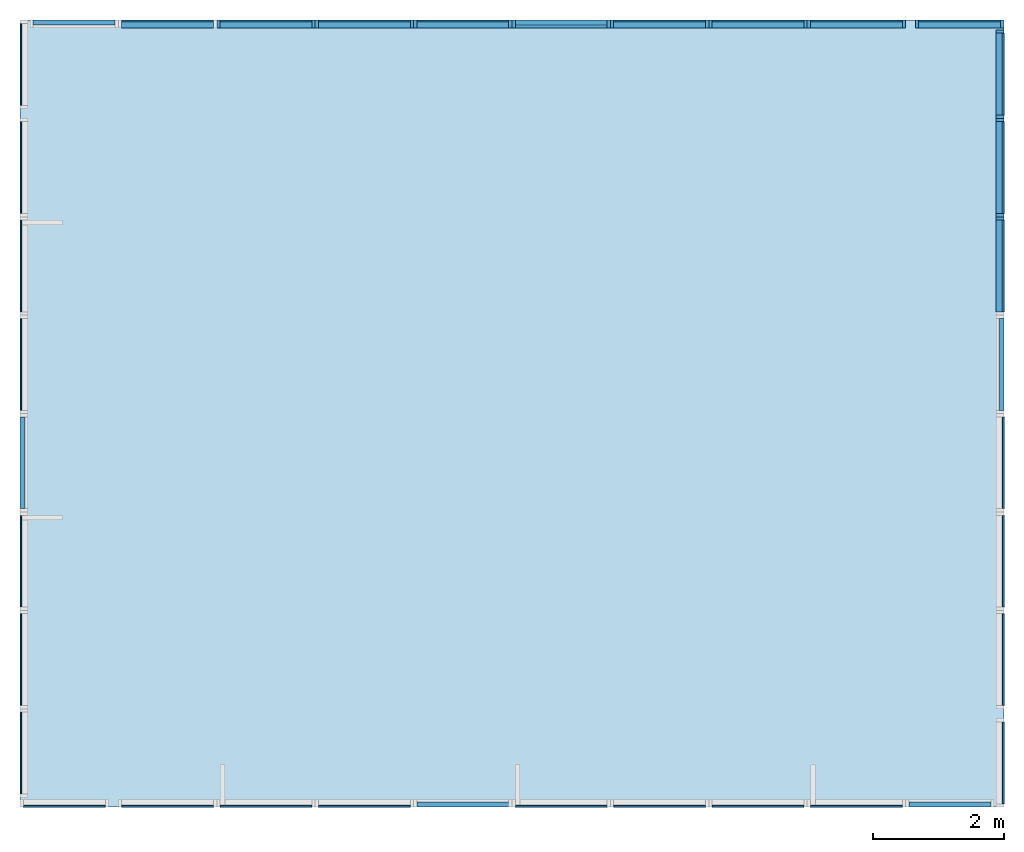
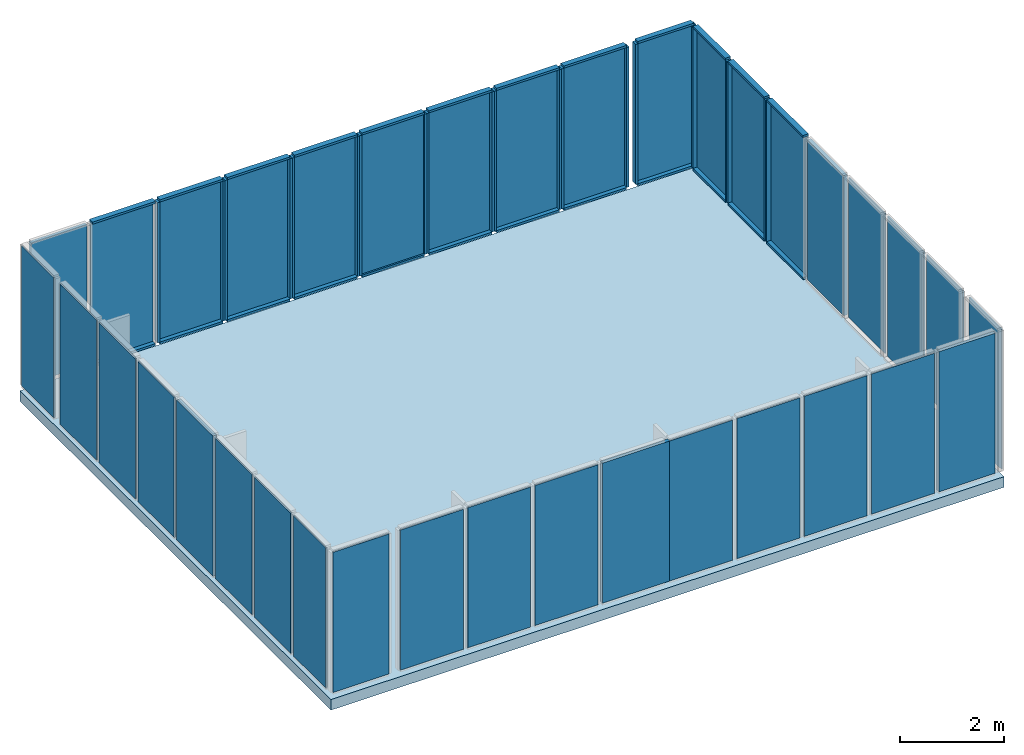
# One storey, part 2 of 2: 45 members, 36 plates, 1 slab.
"""IFC4 building model written with IfcOpenShell, lengths in metres."""

from ifc_helpers import new_model, si_unit, frame, origin_with_axes, place, context, subcontext, project, spatial, indexed_curve, outline, extrude, material, element, save


model = new_model("IFC4")

# Units and contexts
model_context = context("Model", 3, precision=1e-05, world=origin_with_axes())
body_context = subcontext(model_context, "Body", "Model", "MODEL_VIEW")
ifc_project = project(units=[si_unit("AREAUNIT", "SQUARE_METRE"), si_unit("VOLUMEUNIT", "CUBIC_METRE"), si_unit("LENGTHUNIT", "METRE")], contexts=[model_context])

# Site, building, storey
site = spatial("IfcSite", under=ifc_project, Name="Synthetic Site")
building = spatial("IfcBuilding", under=site, Name="Complex Tower")
storey_placement = place(None, frame((0.0, 0.0, 34.2), z_axis=(0.0, 0.0, 1.0), x_axis=(1.0, 0.0, 0.0)))
storey = spatial("IfcBuildingStorey", under=building, at=storey_placement, Name="L10", Elevation=34.2)

# Members
ifc_material_1 = material(Name="Aluminium")
member_placement = place(storey_placement, frame((21.0, 11.950000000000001, 0.14999999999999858), z_axis=(0.0, 0.0, 1.0), x_axis=(6.123233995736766e-17, 1.0, 0.0)))
element("IfcMember", 1, at=member_placement, inside=storey, material=ifc_material_1, Name="CT-L10-E-006-MR", PredefinedType="MULLION", context=body_context, shape_type="SweptSolid", body=[
    extrude(outline(indexed_curve([(0.0, 0.0), (0.0, 0.12), (0.05, 0.12), (0.05, 0.0), (0.0, 0.0)], self_intersect=False)), origin_with_axes(), (0.0, 0.0, 1.0), 3.3000000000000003),
])
for number, where, z_axis, x_axis, name in (
    (2, (21.0, 10.55, 0.10000000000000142), (0.0, 0.0, 1.0), (6.123233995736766e-17, 1.0, 0.0), "CT-L10-E-006-FB"),
    (3, (21.0, 10.55, 3.4499999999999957), (0.0, 0.0, 1.0), (6.123233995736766e-17, 1.0, 0.0), "CT-L10-E-006-FT"),
):
    element("IfcMember", number, at=place(storey_placement, frame(where, z_axis=z_axis, x_axis=x_axis)), inside=storey, material=ifc_material_1, Name=name, PredefinedType="MULLION", context=body_context, shape_type="SweptSolid", body=[
        extrude(outline(indexed_curve([(0.0, 0.0), (0.0, 0.12), (1.4, 0.12), (1.4, 0.0), (0.0, 0.0)], self_intersect=False)), origin_with_axes(), (0.0, 0.0, 1.0), 0.05),
    ])
for number, where, z_axis, x_axis, name in (
    (4, (21.0, 12.0, 0.14999999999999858), (0.0, 0.0, 1.0), (6.123233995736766e-17, 1.0, 0.0), "CT-L10-E-007-ML"),
    (5, (21.0, 13.450000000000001, 0.14999999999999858), (0.0, 0.0, 1.0), (6.123233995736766e-17, 1.0, 0.0), "CT-L10-E-007-MR"),
):
    element("IfcMember", number, at=place(storey_placement, frame(where, z_axis=z_axis, x_axis=x_axis)), inside=storey, material=ifc_material_1, Name=name, PredefinedType="MULLION", context=body_context, shape_type="SweptSolid", body=[
        extrude(outline(indexed_curve([(0.0, 0.0), (0.0, 0.12), (0.05, 0.12), (0.05, 0.0), (0.0, 0.0)], self_intersect=False)), origin_with_axes(), (0.0, 0.0, 1.0), 3.3000000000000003),
    ])
for number, where, z_axis, x_axis, name in (
    (6, (21.0, 12.05, 0.10000000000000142), (0.0, 0.0, 1.0), (6.123233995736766e-17, 1.0, 0.0), "CT-L10-E-007-FB"),
    (7, (21.0, 12.05, 3.4499999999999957), (0.0, 0.0, 1.0), (6.123233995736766e-17, 1.0, 0.0), "CT-L10-E-007-FT"),
):
    element("IfcMember", number, at=place(storey_placement, frame(where, z_axis=z_axis, x_axis=x_axis)), inside=storey, material=ifc_material_1, Name=name, PredefinedType="MULLION", context=body_context, shape_type="SweptSolid", body=[
        extrude(outline(indexed_curve([(0.0, 0.0), (0.0, 0.12), (1.4, 0.12), (1.4, 0.0), (0.0, 0.0)], self_intersect=False)), origin_with_axes(), (0.0, 0.0, 1.0), 0.05),
    ])
for number, where, z_axis, x_axis, name in (
    (8, (21.0, 13.5, 0.14999999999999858), (0.0, 0.0, 1.0), (6.123233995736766e-17, 1.0, 0.0), "CT-L10-E-008-ML"),
    (9, (21.0, 14.8, 0.14999999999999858), (0.0, 0.0, 1.0), (6.123233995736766e-17, 1.0, 0.0), "CT-L10-E-008-MR"),
):
    element("IfcMember", number, at=place(storey_placement, frame(where, z_axis=z_axis, x_axis=x_axis)), inside=storey, material=ifc_material_1, Name=name, PredefinedType="MULLION", context=body_context, shape_type="SweptSolid", body=[
        extrude(outline(indexed_curve([(0.0, 0.0), (0.0, 0.12), (0.05, 0.12), (0.05, 0.0), (0.0, 0.0)], self_intersect=False)), origin_with_axes(), (0.0, 0.0, 1.0), 3.3000000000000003),
    ])
for number, where, z_axis, x_axis, name in (
    (10, (21.0, 13.55, 0.10000000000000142), (0.0, 0.0, 1.0), (6.123233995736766e-17, 1.0, 0.0), "CT-L10-E-008-FB"),
    (11, (21.0, 13.55, 3.4499999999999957), (0.0, 0.0, 1.0), (6.123233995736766e-17, 1.0, 0.0), "CT-L10-E-008-FT"),
):
    element("IfcMember", number, at=place(storey_placement, frame(where, z_axis=z_axis, x_axis=x_axis)), inside=storey, material=ifc_material_1, Name=name, PredefinedType="MULLION", context=body_context, shape_type="SweptSolid", body=[
        extrude(outline(indexed_curve([(0.0, 0.0), (0.0, 0.12), (1.25, 0.12), (1.25, 0.0), (0.0, 0.0)], self_intersect=False)), origin_with_axes(), (0.0, 0.0, 1.0), 0.05),
    ])
for number, where, z_axis, x_axis, name in (
    (12, (21.0, 15.0, 0.14999999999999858), (0.0, 0.0, 1.0), (-1.0, 1.2246467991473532e-16, 0.0), "CT-L10-N-001-ML"),
    (13, (19.7, 15.0, 0.14999999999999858), (0.0, 0.0, 1.0), (-1.0, 1.2246467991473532e-16, 0.0), "CT-L10-N-001-MR"),
):
    element("IfcMember", number, at=place(storey_placement, frame(where, z_axis=z_axis, x_axis=x_axis)), inside=storey, material=ifc_material_1, Name=name, PredefinedType="MULLION", context=body_context, shape_type="SweptSolid", body=[
        extrude(outline(indexed_curve([(0.0, 0.0), (0.0, 0.12), (0.05, 0.12), (0.05, 0.0), (0.0, 0.0)], self_intersect=False)), origin_with_axes(), (0.0, 0.0, 1.0), 3.3000000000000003),
    ])
for number, where, z_axis, x_axis, name in (
    (14, (20.95, 15.0, 0.10000000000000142), (0.0, 0.0, 1.0), (-1.0, 1.2246467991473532e-16, 0.0), "CT-L10-N-001-FB"),
    (15, (20.95, 15.0, 3.4499999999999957), (0.0, 0.0, 1.0), (-1.0, 1.2246467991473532e-16, 0.0), "CT-L10-N-001-FT"),
):
    element("IfcMember", number, at=place(storey_placement, frame(where, z_axis=z_axis, x_axis=x_axis)), inside=storey, material=ifc_material_1, Name=name, PredefinedType="MULLION", context=body_context, shape_type="SweptSolid", body=[
        extrude(outline(indexed_curve([(0.0, 0.0), (0.0, 0.12), (1.25, 0.12), (1.25, 0.0), (0.0, 0.0)], self_intersect=False)), origin_with_axes(), (0.0, 0.0, 1.0), 0.05),
    ])
for number, where, z_axis, x_axis, name in (
    (16, (19.5, 15.0, 0.14999999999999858), (0.0, 0.0, 1.0), (-1.0, 1.2246467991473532e-16, 0.0), "CT-L10-N-002-ML"),
    (17, (18.05, 15.0, 0.14999999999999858), (0.0, 0.0, 1.0), (-1.0, 1.2246467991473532e-16, 0.0), "CT-L10-N-002-MR"),
):
    element("IfcMember", number, at=place(storey_placement, frame(where, z_axis=z_axis, x_axis=x_axis)), inside=storey, material=ifc_material_1, Name=name, PredefinedType="MULLION", context=body_context, shape_type="SweptSolid", body=[
        extrude(outline(indexed_curve([(0.0, 0.0), (0.0, 0.12), (0.05, 0.12), (0.05, 0.0), (0.0, 0.0)], self_intersect=False)), origin_with_axes(), (0.0, 0.0, 1.0), 3.3000000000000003),
    ])
for number, where, z_axis, x_axis, name in (
    (18, (19.45, 15.0, 0.10000000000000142), (0.0, 0.0, 1.0), (-1.0, 1.2246467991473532e-16, 0.0), "CT-L10-N-002-FB"),
    (19, (19.45, 15.0, 3.4499999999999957), (0.0, 0.0, 1.0), (-1.0, 1.2246467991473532e-16, 0.0), "CT-L10-N-002-FT"),
):
    element("IfcMember", number, at=place(storey_placement, frame(where, z_axis=z_axis, x_axis=x_axis)), inside=storey, material=ifc_material_1, Name=name, PredefinedType="MULLION", context=body_context, shape_type="SweptSolid", body=[
        extrude(outline(indexed_curve([(0.0, 0.0), (0.0, 0.12), (1.4, 0.12), (1.4, 0.0), (0.0, 0.0)], self_intersect=False)), origin_with_axes(), (0.0, 0.0, 1.0), 0.05),
    ])
for number, where, z_axis, x_axis, name in (
    (20, (18.0, 15.0, 0.14999999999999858), (0.0, 0.0, 1.0), (-1.0, 1.2246467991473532e-16, 0.0), "CT-L10-N-003-ML"),
    (21, (16.55, 15.0, 0.14999999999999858), (0.0, 0.0, 1.0), (-1.0, 1.2246467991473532e-16, 0.0), "CT-L10-N-003-MR"),
):
    element("IfcMember", number, at=place(storey_placement, frame(where, z_axis=z_axis, x_axis=x_axis)), inside=storey, material=ifc_material_1, Name=name, PredefinedType="MULLION", context=body_context, shape_type="SweptSolid", body=[
        extrude(outline(indexed_curve([(0.0, 0.0), (0.0, 0.12), (0.05, 0.12), (0.05, 0.0), (0.0, 0.0)], self_intersect=False)), origin_with_axes(), (0.0, 0.0, 1.0), 3.3000000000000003),
    ])
for number, where, z_axis, x_axis, name in (
    (22, (17.95, 15.0, 0.10000000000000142), (0.0, 0.0, 1.0), (-1.0, 1.2246467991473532e-16, 0.0), "CT-L10-N-003-FB"),
    (23, (17.95, 15.0, 3.4499999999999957), (0.0, 0.0, 1.0), (-1.0, 1.2246467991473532e-16, 0.0), "CT-L10-N-003-FT"),
):
    element("IfcMember", number, at=place(storey_placement, frame(where, z_axis=z_axis, x_axis=x_axis)), inside=storey, material=ifc_material_1, Name=name, PredefinedType="MULLION", context=body_context, shape_type="SweptSolid", body=[
        extrude(outline(indexed_curve([(0.0, 0.0), (0.0, 0.12), (1.4, 0.12), (1.4, 0.0), (0.0, 0.0)], self_intersect=False)), origin_with_axes(), (0.0, 0.0, 1.0), 0.05),
    ])
for number, where, z_axis, x_axis, name in (
    (24, (16.5, 15.0, 0.14999999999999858), (0.0, 0.0, 1.0), (-1.0, 1.2246467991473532e-16, 0.0), "CT-L10-N-004-ML"),
    (25, (15.049999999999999, 15.0, 0.14999999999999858), (0.0, 0.0, 1.0), (-1.0, 1.2246467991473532e-16, 0.0), "CT-L10-N-004-MR"),
):
    element("IfcMember", number, at=place(storey_placement, frame(where, z_axis=z_axis, x_axis=x_axis)), inside=storey, material=ifc_material_1, Name=name, PredefinedType="MULLION", context=body_context, shape_type="SweptSolid", body=[
        extrude(outline(indexed_curve([(0.0, 0.0), (0.0, 0.12), (0.05, 0.12), (0.05, 0.0), (0.0, 0.0)], self_intersect=False)), origin_with_axes(), (0.0, 0.0, 1.0), 3.3000000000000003),
    ])
for number, where, z_axis, x_axis, name in (
    (26, (16.45, 15.0, 0.10000000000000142), (0.0, 0.0, 1.0), (-1.0, 1.2246467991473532e-16, 0.0), "CT-L10-N-004-FB"),
    (27, (16.45, 15.0, 3.4499999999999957), (0.0, 0.0, 1.0), (-1.0, 1.2246467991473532e-16, 0.0), "CT-L10-N-004-FT"),
):
    element("IfcMember", number, at=place(storey_placement, frame(where, z_axis=z_axis, x_axis=x_axis)), inside=storey, material=ifc_material_1, Name=name, PredefinedType="MULLION", context=body_context, shape_type="SweptSolid", body=[
        extrude(outline(indexed_curve([(0.0, 0.0), (0.0, 0.12), (1.4, 0.12), (1.4, 0.0), (0.0, 0.0)], self_intersect=False)), origin_with_axes(), (0.0, 0.0, 1.0), 0.05),
    ])
for number, where, z_axis, x_axis, name in (
    (28, (15.0, 15.0, 0.14999999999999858), (0.0, 0.0, 1.0), (-1.0, 1.2246467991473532e-16, 0.0), "CT-L10-N-005-ML"),
    (29, (13.549999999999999, 15.0, 0.14999999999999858), (0.0, 0.0, 1.0), (-1.0, 1.2246467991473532e-16, 0.0), "CT-L10-N-005-MR"),
):
    element("IfcMember", number, at=place(storey_placement, frame(where, z_axis=z_axis, x_axis=x_axis)), inside=storey, material=ifc_material_1, Name=name, PredefinedType="MULLION", context=body_context, shape_type="SweptSolid", body=[
        extrude(outline(indexed_curve([(0.0, 0.0), (0.0, 0.12), (0.05, 0.12), (0.05, 0.0), (0.0, 0.0)], self_intersect=False)), origin_with_axes(), (0.0, 0.0, 1.0), 3.3000000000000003),
    ])
for number, where, z_axis, x_axis, name in (
    (30, (14.95, 15.0, 0.10000000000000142), (0.0, 0.0, 1.0), (-1.0, 1.2246467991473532e-16, 0.0), "CT-L10-N-005-FB"),
    (31, (14.95, 15.0, 3.4499999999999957), (0.0, 0.0, 1.0), (-1.0, 1.2246467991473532e-16, 0.0), "CT-L10-N-005-FT"),
):
    element("IfcMember", number, at=place(storey_placement, frame(where, z_axis=z_axis, x_axis=x_axis)), inside=storey, material=ifc_material_1, Name=name, PredefinedType="MULLION", context=body_context, shape_type="SweptSolid", body=[
        extrude(outline(indexed_curve([(0.0, 0.0), (0.0, 0.12), (1.4, 0.12), (1.4, 0.0), (0.0, 0.0)], self_intersect=False)), origin_with_axes(), (0.0, 0.0, 1.0), 0.05),
    ])
for number, where, z_axis, x_axis, name in (
    (32, (13.5, 15.000000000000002, 0.14999999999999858), (0.0, 0.0, 1.0), (-1.0, 1.2246467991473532e-16, 0.0), "CT-L10-N-006-ML"),
    (33, (12.049999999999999, 15.000000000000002, 0.14999999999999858), (0.0, 0.0, 1.0), (-1.0, 1.2246467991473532e-16, 0.0), "CT-L10-N-006-MR"),
):
    element("IfcMember", number, at=place(storey_placement, frame(where, z_axis=z_axis, x_axis=x_axis)), inside=storey, material=ifc_material_1, Name=name, PredefinedType="MULLION", context=body_context, shape_type="SweptSolid", body=[
        extrude(outline(indexed_curve([(0.0, 0.0), (0.0, 0.12), (0.05, 0.12), (0.05, 0.0), (0.0, 0.0)], self_intersect=False)), origin_with_axes(), (0.0, 0.0, 1.0), 3.3000000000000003),
    ])
for number, where, z_axis, x_axis, name in (
    (34, (13.45, 15.000000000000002, 0.10000000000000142), (0.0, 0.0, 1.0), (-1.0, 1.2246467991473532e-16, 0.0), "CT-L10-N-006-FB"),
    (35, (13.45, 15.000000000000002, 3.4499999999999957), (0.0, 0.0, 1.0), (-1.0, 1.2246467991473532e-16, 0.0), "CT-L10-N-006-FT"),
):
    element("IfcMember", number, at=place(storey_placement, frame(where, z_axis=z_axis, x_axis=x_axis)), inside=storey, material=ifc_material_1, Name=name, PredefinedType="MULLION", context=body_context, shape_type="SweptSolid", body=[
        extrude(outline(indexed_curve([(0.0, 0.0), (0.0, 0.12), (1.4, 0.12), (1.4, 0.0), (0.0, 0.0)], self_intersect=False)), origin_with_axes(), (0.0, 0.0, 1.0), 0.05),
    ])
for number, where, z_axis, x_axis, name in (
    (36, (12.0, 15.000000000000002, 0.14999999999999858), (0.0, 0.0, 1.0), (-1.0, 1.2246467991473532e-16, 0.0), "CT-L10-N-007-ML"),
    (37, (10.549999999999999, 15.000000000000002, 0.14999999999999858), (0.0, 0.0, 1.0), (-1.0, 1.2246467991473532e-16, 0.0), "CT-L10-N-007-MR"),
):
    element("IfcMember", number, at=place(storey_placement, frame(where, z_axis=z_axis, x_axis=x_axis)), inside=storey, material=ifc_material_1, Name=name, PredefinedType="MULLION", context=body_context, shape_type="SweptSolid", body=[
        extrude(outline(indexed_curve([(0.0, 0.0), (0.0, 0.12), (0.05, 0.12), (0.05, 0.0), (0.0, 0.0)], self_intersect=False)), origin_with_axes(), (0.0, 0.0, 1.0), 3.3000000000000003),
    ])
for number, where, z_axis, x_axis, name in (
    (38, (11.95, 15.000000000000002, 0.10000000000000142), (0.0, 0.0, 1.0), (-1.0, 1.2246467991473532e-16, 0.0), "CT-L10-N-007-FB"),
    (39, (11.95, 15.000000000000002, 3.4499999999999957), (0.0, 0.0, 1.0), (-1.0, 1.2246467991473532e-16, 0.0), "CT-L10-N-007-FT"),
):
    element("IfcMember", number, at=place(storey_placement, frame(where, z_axis=z_axis, x_axis=x_axis)), inside=storey, material=ifc_material_1, Name=name, PredefinedType="MULLION", context=body_context, shape_type="SweptSolid", body=[
        extrude(outline(indexed_curve([(0.0, 0.0), (0.0, 0.12), (1.4, 0.12), (1.4, 0.0), (0.0, 0.0)], self_intersect=False)), origin_with_axes(), (0.0, 0.0, 1.0), 0.05),
    ])
for number, where, z_axis, x_axis, name in (
    (40, (10.5, 15.000000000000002, 0.14999999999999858), (0.0, 0.0, 1.0), (-1.0, 1.2246467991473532e-16, 0.0), "CT-L10-N-008-ML"),
    (41, (9.049999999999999, 15.000000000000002, 0.14999999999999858), (0.0, 0.0, 1.0), (-1.0, 1.2246467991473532e-16, 0.0), "CT-L10-N-008-MR"),
):
    element("IfcMember", number, at=place(storey_placement, frame(where, z_axis=z_axis, x_axis=x_axis)), inside=storey, material=ifc_material_1, Name=name, PredefinedType="MULLION", context=body_context, shape_type="SweptSolid", body=[
        extrude(outline(indexed_curve([(0.0, 0.0), (0.0, 0.12), (0.05, 0.12), (0.05, 0.0), (0.0, 0.0)], self_intersect=False)), origin_with_axes(), (0.0, 0.0, 1.0), 3.3000000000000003),
    ])
for number, where, z_axis, x_axis, name in (
    (42, (10.45, 15.000000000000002, 0.10000000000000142), (0.0, 0.0, 1.0), (-1.0, 1.2246467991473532e-16, 0.0), "CT-L10-N-008-FB"),
    (43, (10.45, 15.000000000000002, 3.4499999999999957), (0.0, 0.0, 1.0), (-1.0, 1.2246467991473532e-16, 0.0), "CT-L10-N-008-FT"),
    (44, (8.95, 15.000000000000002, 0.10000000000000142), (0.0, 0.0, 1.0), (-1.0, 1.2246467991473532e-16, 0.0), "CT-L10-N-009-FB"),
    (45, (8.95, 15.000000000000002, 3.4499999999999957), (0.0, 0.0, 1.0), (-1.0, 1.2246467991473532e-16, 0.0), "CT-L10-N-009-FT"),
):
    element("IfcMember", number, at=place(storey_placement, frame(where, z_axis=z_axis, x_axis=x_axis)), inside=storey, material=ifc_material_1, Name=name, PredefinedType="MULLION", context=body_context, shape_type="SweptSolid", body=[
        extrude(outline(indexed_curve([(0.0, 0.0), (0.0, 0.12), (1.4, 0.12), (1.4, 0.0), (0.0, 0.0)], self_intersect=False)), origin_with_axes(), (0.0, 0.0, 1.0), 0.05),
    ])

# Plates
ifc_material_2 = material(Name="Glass")
plate_1_placement = place(storey_placement, frame((6.05, 3.0, 0.14999999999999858), z_axis=(0.0, 0.0, 1.0), x_axis=(1.0, 0.0, 0.0)))
element("IfcPlate", 46, at=plate_1_placement, inside=storey, material=ifc_material_2, Name="CT-L10-S-001", PredefinedType="CURTAIN_PANEL", context=body_context, shape_type="SweptSolid", body=[
    extrude(outline(indexed_curve([(0.0, 0.0), (0.0, 0.028), (1.25, 0.028), (1.25, 0.0), (0.0, 0.0)], self_intersect=False)), origin_with_axes(), (0.0, 0.0, 1.0), 3.3000000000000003),
])
for number, where, z_axis, x_axis, name in (
    (47, (7.55, 3.0, 0.14999999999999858), (0.0, 0.0, 1.0), (1.0, 0.0, 0.0), "CT-L10-S-002"),
    (48, (9.05, 3.0, 0.14999999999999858), (0.0, 0.0, 1.0), (1.0, 0.0, 0.0), "CT-L10-S-003"),
    (49, (10.55, 3.0, 0.14999999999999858), (0.0, 0.0, 1.0), (1.0, 0.0, 0.0), "CT-L10-S-004"),
):
    element("IfcPlate", number, at=place(storey_placement, frame(where, z_axis=z_axis, x_axis=x_axis)), inside=storey, material=ifc_material_2, Name=name, PredefinedType="CURTAIN_PANEL", context=body_context, shape_type="SweptSolid", body=[
        extrude(outline(indexed_curve([(0.0, 0.0), (0.0, 0.028), (1.4, 0.028), (1.4, 0.0), (0.0, 0.0)], self_intersect=False)), origin_with_axes(), (0.0, 0.0, 1.0), 3.3000000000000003),
    ])
plate_2_placement = place(storey_placement, frame((12.05, 3.0, 0.14999999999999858), z_axis=(0.0, 0.0, 1.0), x_axis=(1.0, 0.0, 0.0)))
element("IfcPlate", 50, at=plate_2_placement, inside=storey, material=ifc_material_1, Name="CT-L10-S-005", PredefinedType="SHEET", context=body_context, shape_type="SweptSolid", body=[
    extrude(outline(indexed_curve([(0.0, 0.0), (0.0, 0.08), (1.5, 0.08), (1.5, 0.0), (0.0, 0.0)], self_intersect=False)), origin_with_axes(), (0.0, 0.0, 1.0), 3.3000000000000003),
])
for number, where, z_axis, x_axis, name in (
    (51, (13.55, 3.0, 0.14999999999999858), (0.0, 0.0, 1.0), (1.0, 0.0, 0.0), "CT-L10-S-006"),
    (52, (15.05, 3.0, 0.14999999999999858), (0.0, 0.0, 1.0), (1.0, 0.0, 0.0), "CT-L10-S-007"),
    (53, (16.55, 3.0, 0.14999999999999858), (0.0, 0.0, 1.0), (1.0, 0.0, 0.0), "CT-L10-S-008"),
    (54, (18.05, 3.0, 0.14999999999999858), (0.0, 0.0, 1.0), (1.0, 0.0, 0.0), "CT-L10-S-009"),
):
    element("IfcPlate", number, at=place(storey_placement, frame(where, z_axis=z_axis, x_axis=x_axis)), inside=storey, material=ifc_material_2, Name=name, PredefinedType="CURTAIN_PANEL", context=body_context, shape_type="SweptSolid", body=[
        extrude(outline(indexed_curve([(0.0, 0.0), (0.0, 0.028), (1.4, 0.028), (1.4, 0.0), (0.0, 0.0)], self_intersect=False)), origin_with_axes(), (0.0, 0.0, 1.0), 3.3000000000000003),
    ])
plate_3_placement = place(storey_placement, frame((19.55, 3.0, 0.14999999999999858), z_axis=(0.0, 0.0, 1.0), x_axis=(1.0, 0.0, 0.0)))
element("IfcPlate", 55, at=plate_3_placement, inside=storey, material=ifc_material_1, Name="CT-L10-S-010", PredefinedType="SHEET", context=body_context, shape_type="SweptSolid", body=[
    extrude(outline(indexed_curve([(0.0, 0.0), (0.0, 0.08), (1.25, 0.08), (1.25, 0.0), (0.0, 0.0)], self_intersect=False)), origin_with_axes(), (0.0, 0.0, 1.0), 3.3000000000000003),
])
plate_4_placement = place(storey_placement, frame((21.0, 3.05, 0.14999999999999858), z_axis=(0.0, 0.0, 1.0), x_axis=(6.123233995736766e-17, 1.0, 0.0)))
element("IfcPlate", 56, at=plate_4_placement, inside=storey, material=ifc_material_2, Name="CT-L10-E-001", PredefinedType="CURTAIN_PANEL", context=body_context, shape_type="SweptSolid", body=[
    extrude(outline(indexed_curve([(0.0, 0.0), (0.0, 0.028), (1.25, 0.028), (1.25, 0.0), (0.0, 0.0)], self_intersect=False)), origin_with_axes(), (0.0, 0.0, 1.0), 3.3000000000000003),
])
for number, where, z_axis, x_axis, name in (
    (57, (21.0, 4.55, 0.14999999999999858), (0.0, 0.0, 1.0), (6.123233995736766e-17, 1.0, 0.0), "CT-L10-E-002"),
    (58, (21.0, 6.05, 0.14999999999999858), (0.0, 0.0, 1.0), (6.123233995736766e-17, 1.0, 0.0), "CT-L10-E-003"),
    (59, (21.0, 7.55, 0.14999999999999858), (0.0, 0.0, 1.0), (6.123233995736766e-17, 1.0, 0.0), "CT-L10-E-004"),
):
    element("IfcPlate", number, at=place(storey_placement, frame(where, z_axis=z_axis, x_axis=x_axis)), inside=storey, material=ifc_material_2, Name=name, PredefinedType="CURTAIN_PANEL", context=body_context, shape_type="SweptSolid", body=[
        extrude(outline(indexed_curve([(0.0, 0.0), (0.0, 0.028), (1.4, 0.028), (1.4, 0.0), (0.0, 0.0)], self_intersect=False)), origin_with_axes(), (0.0, 0.0, 1.0), 3.3000000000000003),
    ])
plate_5_placement = place(storey_placement, frame((21.0, 9.05, 0.14999999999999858), z_axis=(0.0, 0.0, 1.0), x_axis=(6.123233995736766e-17, 1.0, 0.0)))
element("IfcPlate", 60, at=plate_5_placement, inside=storey, material=ifc_material_1, Name="CT-L10-E-005", PredefinedType="SHEET", context=body_context, shape_type="SweptSolid", body=[
    extrude(outline(indexed_curve([(0.0, 0.0), (0.0, 0.08), (1.4, 0.08), (1.4, 0.0), (0.0, 0.0)], self_intersect=False)), origin_with_axes(), (0.0, 0.0, 1.0), 3.3000000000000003),
])
for number, where, z_axis, x_axis, name in (
    (61, (21.0, 10.55, 0.14999999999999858), (0.0, 0.0, 1.0), (6.123233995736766e-17, 1.0, 0.0), "CT-L10-E-006"),
    (62, (21.0, 12.05, 0.14999999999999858), (0.0, 0.0, 1.0), (6.123233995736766e-17, 1.0, 0.0), "CT-L10-E-007"),
):
    element("IfcPlate", number, at=place(storey_placement, frame(where, z_axis=z_axis, x_axis=x_axis)), inside=storey, material=ifc_material_2, Name=name, PredefinedType="CURTAIN_PANEL", context=body_context, shape_type="SweptSolid", body=[
        extrude(outline(indexed_curve([(0.0, 0.0), (0.0, 0.028), (1.4, 0.028), (1.4, 0.0), (0.0, 0.0)], self_intersect=False)), origin_with_axes(), (0.0, 0.0, 1.0), 3.3000000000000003),
    ])
for number, where, z_axis, x_axis, name in (
    (63, (21.0, 13.55, 0.14999999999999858), (0.0, 0.0, 1.0), (6.123233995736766e-17, 1.0, 0.0), "CT-L10-E-008"),
    (64, (20.95, 15.0, 0.14999999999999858), (0.0, 0.0, 1.0), (-1.0, 1.2246467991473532e-16, 0.0), "CT-L10-N-001"),
):
    element("IfcPlate", number, at=place(storey_placement, frame(where, z_axis=z_axis, x_axis=x_axis)), inside=storey, material=ifc_material_2, Name=name, PredefinedType="CURTAIN_PANEL", context=body_context, shape_type="SweptSolid", body=[
        extrude(outline(indexed_curve([(0.0, 0.0), (0.0, 0.028), (1.25, 0.028), (1.25, 0.0), (0.0, 0.0)], self_intersect=False)), origin_with_axes(), (0.0, 0.0, 1.0), 3.3000000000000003),
    ])
for number, where, z_axis, x_axis, name in (
    (65, (19.45, 15.0, 0.14999999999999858), (0.0, 0.0, 1.0), (-1.0, 1.2246467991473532e-16, 0.0), "CT-L10-N-002"),
    (66, (17.95, 15.0, 0.14999999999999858), (0.0, 0.0, 1.0), (-1.0, 1.2246467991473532e-16, 0.0), "CT-L10-N-003"),
    (67, (16.45, 15.0, 0.14999999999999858), (0.0, 0.0, 1.0), (-1.0, 1.2246467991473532e-16, 0.0), "CT-L10-N-004"),
):
    element("IfcPlate", number, at=place(storey_placement, frame(where, z_axis=z_axis, x_axis=x_axis)), inside=storey, material=ifc_material_2, Name=name, PredefinedType="CURTAIN_PANEL", context=body_context, shape_type="SweptSolid", body=[
        extrude(outline(indexed_curve([(0.0, 0.0), (0.0, 0.028), (1.4, 0.028), (1.4, 0.0), (0.0, 0.0)], self_intersect=False)), origin_with_axes(), (0.0, 0.0, 1.0), 3.3000000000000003),
    ])
plate_6_placement = place(storey_placement, frame((14.95, 15.0, 0.14999999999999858), z_axis=(0.0, 0.0, 1.0), x_axis=(-1.0, 1.2246467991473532e-16, 0.0)))
element("IfcPlate", 68, at=plate_6_placement, inside=storey, material=ifc_material_1, Name="CT-L10-N-005", PredefinedType="SHEET", context=body_context, shape_type="SweptSolid", body=[
    extrude(outline(indexed_curve([(0.0, 0.0), (0.0, 0.08), (1.4, 0.08), (1.4, 0.0), (0.0, 0.0)], self_intersect=False)), origin_with_axes(), (0.0, 0.0, 1.0), 3.3000000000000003),
])
for number, where, z_axis, x_axis, name in (
    (69, (13.45, 15.000000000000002, 0.14999999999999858), (0.0, 0.0, 1.0), (-1.0, 1.2246467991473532e-16, 0.0), "CT-L10-N-006"),
    (70, (11.95, 15.000000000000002, 0.14999999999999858), (0.0, 0.0, 1.0), (-1.0, 1.2246467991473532e-16, 0.0), "CT-L10-N-007"),
    (71, (10.45, 15.000000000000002, 0.14999999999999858), (0.0, 0.0, 1.0), (-1.0, 1.2246467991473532e-16, 0.0), "CT-L10-N-008"),
    (72, (8.95, 15.000000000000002, 0.14999999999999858), (0.0, 0.0, 1.0), (-1.0, 1.2246467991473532e-16, 0.0), "CT-L10-N-009"),
):
    element("IfcPlate", number, at=place(storey_placement, frame(where, z_axis=z_axis, x_axis=x_axis)), inside=storey, material=ifc_material_2, Name=name, PredefinedType="CURTAIN_PANEL", context=body_context, shape_type="SweptSolid", body=[
        extrude(outline(indexed_curve([(0.0, 0.0), (0.0, 0.028), (1.4, 0.028), (1.4, 0.0), (0.0, 0.0)], self_intersect=False)), origin_with_axes(), (0.0, 0.0, 1.0), 3.3000000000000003),
    ])
plate_7_placement = place(storey_placement, frame((7.449999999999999, 15.000000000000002, 0.14999999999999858), z_axis=(0.0, 0.0, 1.0), x_axis=(-1.0, 1.2246467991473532e-16, 0.0)))
element("IfcPlate", 73, at=plate_7_placement, inside=storey, material=ifc_material_1, Name="CT-L10-N-010", PredefinedType="SHEET", context=body_context, shape_type="SweptSolid", body=[
    extrude(outline(indexed_curve([(0.0, 0.0), (0.0, 0.08), (1.25, 0.08), (1.25, 0.0), (0.0, 0.0)], self_intersect=False)), origin_with_axes(), (0.0, 0.0, 1.0), 3.3000000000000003),
])
plate_8_placement = place(storey_placement, frame((6.0, 14.95, 0.14999999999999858), z_axis=(0.0, 0.0, 1.0), x_axis=(-1.8369701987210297e-16, -1.0, 0.0)))
element("IfcPlate", 74, at=plate_8_placement, inside=storey, material=ifc_material_2, Name="CT-L10-W-001", PredefinedType="CURTAIN_PANEL", context=body_context, shape_type="SweptSolid", body=[
    extrude(outline(indexed_curve([(0.0, 0.0), (0.0, 0.028), (1.25, 0.028), (1.25, 0.0), (0.0, 0.0)], self_intersect=False)), origin_with_axes(), (0.0, 0.0, 1.0), 3.3000000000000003),
])
for number, where, z_axis, x_axis, name in (
    (75, (6.0, 13.45, 0.14999999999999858), (0.0, 0.0, 1.0), (-1.8369701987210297e-16, -1.0, 0.0), "CT-L10-W-002"),
    (76, (5.999999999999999, 11.95, 0.14999999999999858), (0.0, 0.0, 1.0), (-1.8369701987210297e-16, -1.0, 0.0), "CT-L10-W-003"),
    (77, (5.999999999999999, 10.45, 0.14999999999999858), (0.0, 0.0, 1.0), (-1.8369701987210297e-16, -1.0, 0.0), "CT-L10-W-004"),
):
    element("IfcPlate", number, at=place(storey_placement, frame(where, z_axis=z_axis, x_axis=x_axis)), inside=storey, material=ifc_material_2, Name=name, PredefinedType="CURTAIN_PANEL", context=body_context, shape_type="SweptSolid", body=[
        extrude(outline(indexed_curve([(0.0, 0.0), (0.0, 0.028), (1.4, 0.028), (1.4, 0.0), (0.0, 0.0)], self_intersect=False)), origin_with_axes(), (0.0, 0.0, 1.0), 3.3000000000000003),
    ])
plate_9_placement = place(storey_placement, frame((5.999999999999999, 8.95, 0.14999999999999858), z_axis=(0.0, 0.0, 1.0), x_axis=(-1.8369701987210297e-16, -1.0, 0.0)))
element("IfcPlate", 78, at=plate_9_placement, inside=storey, material=ifc_material_1, Name="CT-L10-W-005", PredefinedType="SHEET", context=body_context, shape_type="SweptSolid", body=[
    extrude(outline(indexed_curve([(0.0, 0.0), (0.0, 0.08), (1.4, 0.08), (1.4, 0.0), (0.0, 0.0)], self_intersect=False)), origin_with_axes(), (0.0, 0.0, 1.0), 3.3000000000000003),
])
for number, where, z_axis, x_axis, name in (
    (79, (5.999999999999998, 7.45, 0.14999999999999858), (0.0, 0.0, 1.0), (-1.8369701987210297e-16, -1.0, 0.0), "CT-L10-W-006"),
    (80, (5.999999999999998, 5.949999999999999, 0.14999999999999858), (0.0, 0.0, 1.0), (-1.8369701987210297e-16, -1.0, 0.0), "CT-L10-W-007"),
):
    element("IfcPlate", number, at=place(storey_placement, frame(where, z_axis=z_axis, x_axis=x_axis)), inside=storey, material=ifc_material_2, Name=name, PredefinedType="CURTAIN_PANEL", context=body_context, shape_type="SweptSolid", body=[
        extrude(outline(indexed_curve([(0.0, 0.0), (0.0, 0.028), (1.4, 0.028), (1.4, 0.0), (0.0, 0.0)], self_intersect=False)), origin_with_axes(), (0.0, 0.0, 1.0), 3.3000000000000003),
    ])
plate_10_placement = place(storey_placement, frame((5.999999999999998, 4.449999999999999, 0.14999999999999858), z_axis=(0.0, 0.0, 1.0), x_axis=(-1.8369701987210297e-16, -1.0, 0.0)))
element("IfcPlate", 81, at=plate_10_placement, inside=storey, material=ifc_material_2, Name="CT-L10-W-008", PredefinedType="CURTAIN_PANEL", context=body_context, shape_type="SweptSolid", body=[
    extrude(outline(indexed_curve([(0.0, 0.0), (0.0, 0.028), (1.25, 0.028), (1.25, 0.0), (0.0, 0.0)], self_intersect=False)), origin_with_axes(), (0.0, 0.0, 1.0), 3.3000000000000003),
])

# Slab
ifc_material_3 = material(Name="Concrete")
slab_placement = place(storey_placement, frame((6.0, 3.0, -0.25), z_axis=(0.0, 0.0, 1.0), x_axis=(1.0, 0.0, 0.0)))
element("IfcSlab", 82, at=slab_placement, inside=storey, material=ifc_material_3, Name="CT-SLAB-10", PredefinedType="FLOOR", context=body_context, shape_type="SweptSolid", body=[
    extrude(outline(indexed_curve([(0.0, 0.0), (0.0, 12.0), (15.0, 12.0), (15.0, 0.0), (0.0, 0.0)], self_intersect=False)), origin_with_axes(), (0.0, 0.0, 1.0), 0.25),
])

save(model, "model.ifc")
